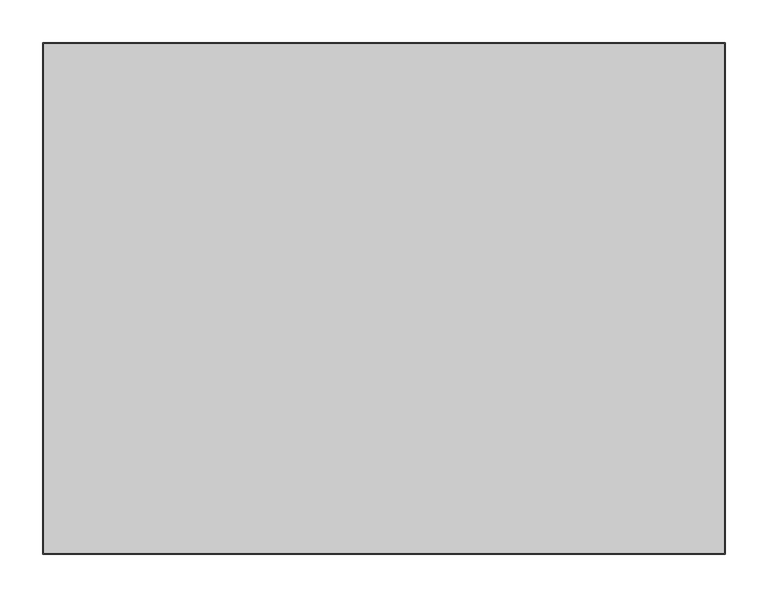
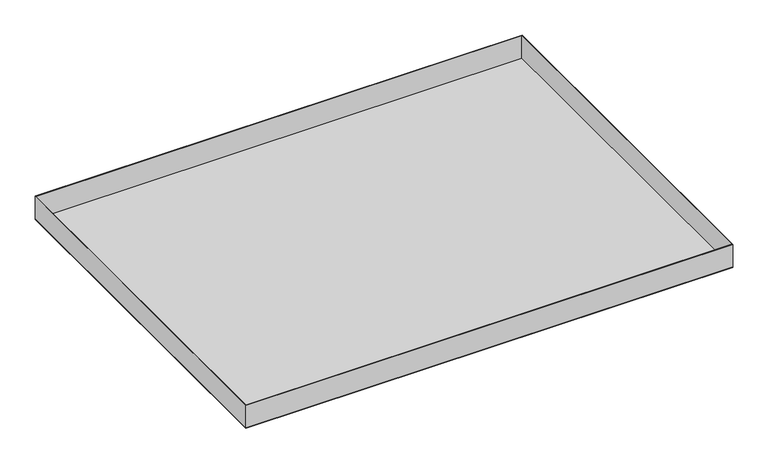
"""IFC4 building model written with IfcOpenShell, lengths in millimetres: proxy geometry, durlum_S4_panel : durlum_S4_panel_wall_length_cut."""

from ifc_helpers import new_model, si_unit, frame, origin, origin_with_axes, place, context, project, spatial, polyline, outline, extrude, source, transform, mapped, element, save


def generic_models_9e23e978(model_context):
    return source(origin(), model_context, "Body", "SweptSolid", [
        extrude(outline(polyline([(399.0, 299.0), (399.0, -299.0), (-399.0, -299.0), (-399.0, 299.0), (399.0, 299.0)]), holes=[polyline([(398.0, 298.0), (-398.0, 298.0), (-398.0, -298.0), (398.0, -298.0), (398.0, 298.0)])]), frame((0.0, 0.0, 1.0), z_axis=(0.0, 0.0, 1.0), x_axis=(1.0, 0.0, 0.0)), (0.0, 0.0, 1.0), 39.0),
        extrude(outline(polyline([(399.0, 299.0), (399.0, -299.0), (-399.0, -299.0), (-399.0, 299.0), (399.0, 299.0)])), origin_with_axes(), (0.0, 0.0, 1.0), 1.0),
    ])


if __name__ == "__main__":
    model = new_model("IFC4")
    model_context = context("Model", 3, world=origin())
    ifc_project = project(units=[si_unit("LENGTHUNIT", "METRE", prefix="MILLI")], contexts=[model_context])
    site = spatial("IfcSite", under=ifc_project)
    building = spatial("IfcBuilding", under=site)
    placement = place(None, origin())
    generic_models_shape = generic_models_9e23e978(model_context)
    element("IfcBuildingElementProxy", 1, Name="durlum_S4_panel : durlum_S4_panel_wall_length_cut", ObjectType="durlum_S4_panel : durlum_S4_panel_wall_length_cut", at=placement, inside=building, context=model_context, shape_type="MappedRepresentation", body=[
        mapped(generic_models_shape, transform((0.0, 0.0, 0.0), x_axis=(1.0, 0.0, 0.0), y_axis=(0.0, 1.0, 0.0), z_axis=(0.0, 0.0, 1.0))),
    ])
    save(model, "model.ifc")
